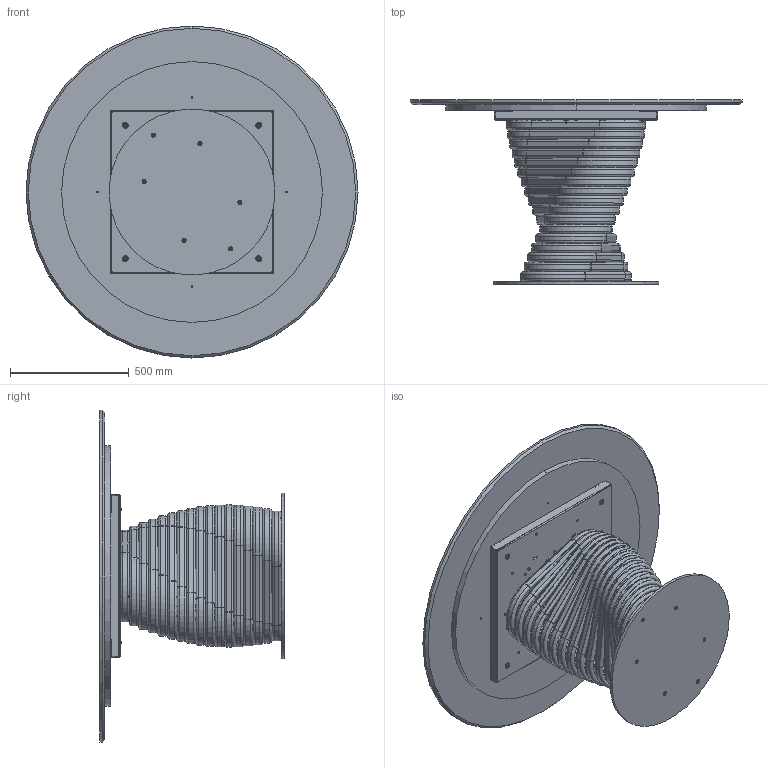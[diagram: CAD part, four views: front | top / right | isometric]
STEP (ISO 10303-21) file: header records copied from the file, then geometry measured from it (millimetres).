
FILE_DESCRIPTION (( 'STEP AP203' ), '1' );
FILE_NAME ('RO06M.STEP', '2024-08-07T13:10:13', ( '' ), ( '' ), 'SwSTEP 2.0', 'SolidWorks 2022', '' );
FILE_SCHEMA (( 'CONFIG_CONTROL_DESIGN' ));
Length unit declared in the file: millimetre
Products named in the file (17): ROBX00000INF-00-Anello rotolo INFERIORE_Default<A macchina>; RO06M; M8xXXmm_M8x55mm; rondella M8_8X24; TTAV0801-02-TELAIO UNIVERSALE TONDO-VASSOIO; TTAV0801 TELAIO UNIVERSALE TONDO-PIASTRINA; M0X-00- D. piani marmo_D.1400; M0XMXX-00-Piani Rotondi in marmo 2024_1400; ROBX00000MED-00-Anello rotolo MEDIO_Default<A macchina>; M8xXXmm_M8x20mm; ROBX00000-00-ROTOLO BASE 17 ANELLI; TRU0000X-00-SOTTO PIANO D.XXXXmm_TRU00002 D.110cm ; M8xXXmm_hex_M8X20mm; ROBX00000SUP-00-Anello rotolo SUPERIORE_Default<A macchina>; COLLO TELAIO UNIVERSALE TTAV0801 CON FERRAMENTA_MTG TOP LEGNO-MARMO-KING; ROB200000-00-PIASTRA BASE_Ø70cm; TTAV0801-02-TELAIO UNIVERSALE TONDO
Assembly tree (51 placements, depth 4):
  RO06M
    ROB200000-00-PIASTRA BASE_Ø70cm
    ROBX00000-00-ROTOLO BASE 17 ANELLI
      ROBX00000INF-00-Anello rotolo INFERIORE_Default<A macchina>
      ROBX00000MED-00-Anello rotolo MEDIO_Default<A macchina>  x15
      ROBX00000SUP-00-Anello rotolo SUPERIORE_Default<A macchina>
    M8xXXmm_hex_M8X20mm  x6
    COLLO TELAIO UNIVERSALE TTAV0801 CON FERRAMENTA_MTG TOP LEGNO-MARMO-KING
      TTAV0801-02-TELAIO UNIVERSALE TONDO
        TTAV0801-02-TELAIO UNIVERSALE TONDO-VASSOIO
        TTAV0801 TELAIO UNIVERSALE TONDO-PIASTRINA  x4
      rondella M8_8X24  x4
      M8xXXmm_M8x55mm  x4
    rondella M8_8X24  x4
    M8xXXmm_M8x20mm  x4
    M0XMXX-00-Piani Rotondi in marmo 2024_1400
      M0X-00- D. piani marmo_D.1400
      TRU0000X-00-SOTTO PIANO D.XXXXmm_TRU00002 D.110cm 
Bounding box: 1400 x 777 x 1400 mm (x, y, z)
Volume: 66133605.9 mm3; surface area: 12014440.3 mm2
Topology: 98 solids, 98 shells, 1802 faces, 4390 edges, 2755 vertices
Faces by surface type: plane 744, cylinder 656, torus 244, cone 158
Entity records: 24288 total; most frequent: CARTESIAN_POINT 5308, DIRECTION 3537, ORIENTED_EDGE 3290, EDGE_CURVE 1645, AXIS2_PLACEMENT_3D 1313, VERTEX_POINT 1054, LINE 911, VECTOR 911
